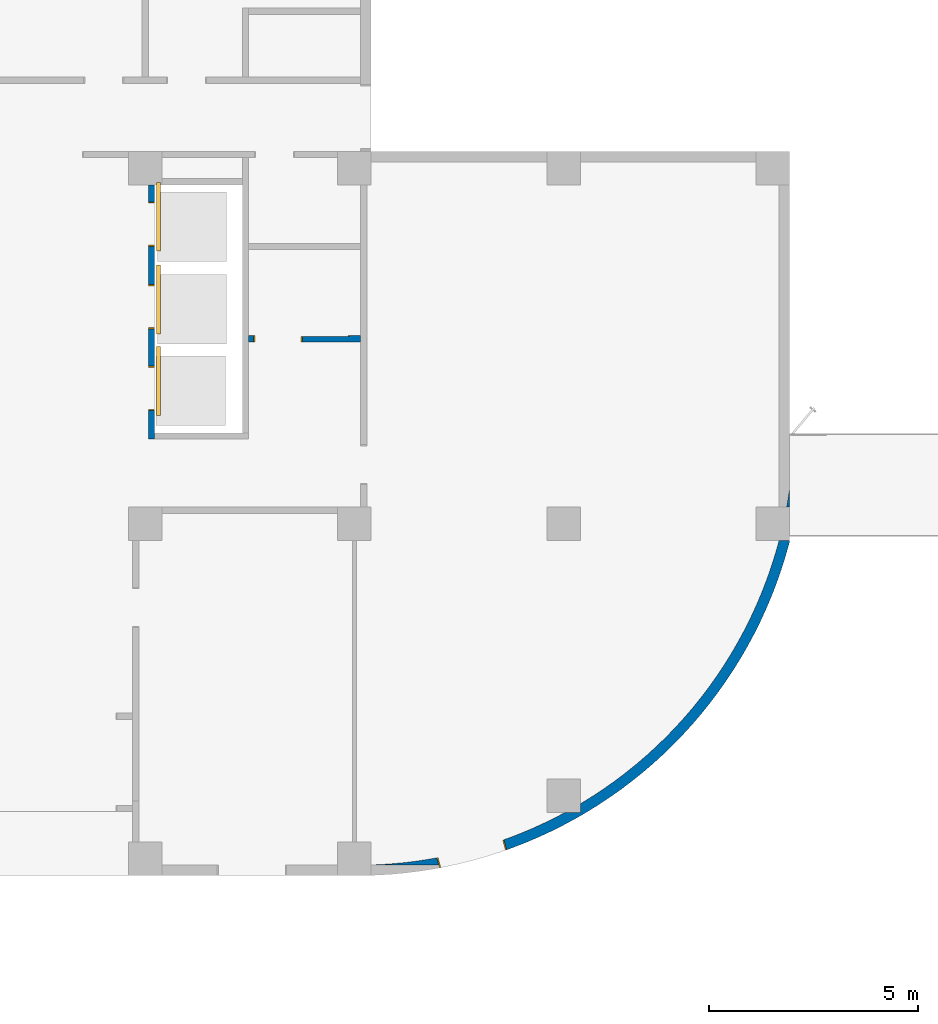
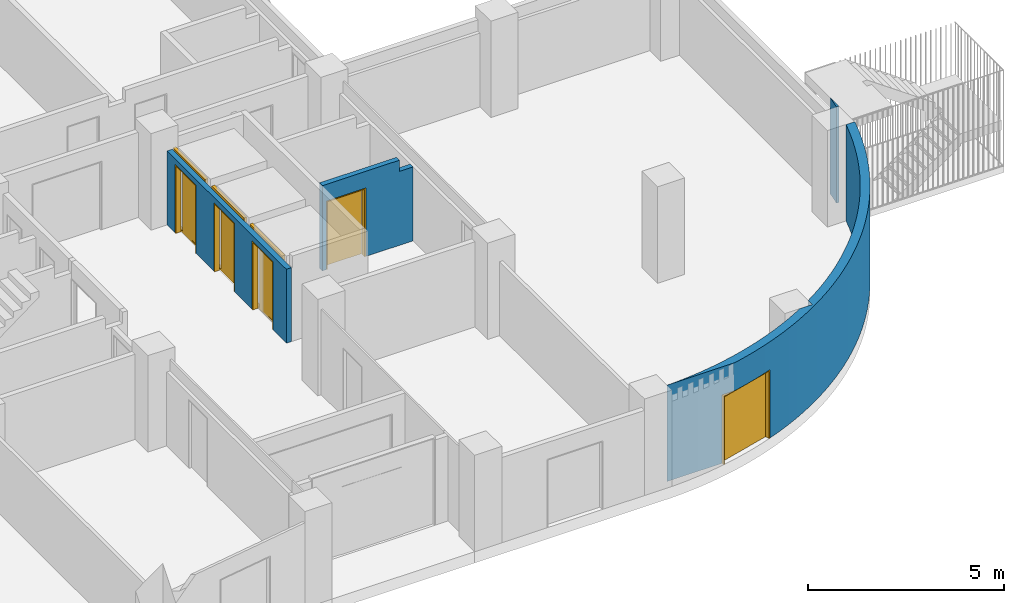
# One storey, part 4 of 9: 5 doors, 3 walls, 5 openings.
"""IFC2X3 building model written with IfcOpenShell, lengths in millimetres."""

import ifcopenshell
import ifcopenshell.guid

model = None  # the IFC model being written
_history = None  # IfcOwnerHistory: only IFC2X3 demands one
_inside = {}  # id of a spatial element -> (the spatial element, [elements in it])
_under = {}  # id of a project, library or spatial element -> (it, [spatial elements below it])
_declared = {}  # id of a project -> (the project, [libraries it declares])
_typed = {}  # id of a type object -> (the type object, [elements of that type])
_made_of = {}  # id of a material, layer set ... -> (it, [elements and type objects made of it])


def new_model(schema):
    """Start an empty IFC model of exactly this schema.

    Asked for "IFC4X3", IfcOpenShell would pick the latest addendum, in which some entities
    have other attributes; the version numbers below select the first issue.
    IFC2X3 requires an IfcOwnerHistory on every rooted entity: one is made here for all.
    """
    global model, _history
    if schema == "IFC4X3":
        model = ifcopenshell.file(schema_version=(4, 3, 0, 0))
    else:
        model = ifcopenshell.file(schema=schema)
    _inside.clear()
    _under.clear()
    _declared.clear()
    _typed.clear()
    _made_of.clear()
    _history = None
    if model.schema == "IFC2X3":
        org = make("IfcOrganization", Name="unknown")
        user = make(
            "IfcPersonAndOrganization",
            ThePerson=make("IfcPerson", FamilyName="unknown"),
            TheOrganization=org,
        )
        app = make(
            "IfcApplication",
            ApplicationDeveloper=org,
            Version="unknown",
            ApplicationFullName="unknown",
            ApplicationIdentifier="unknown",
        )
        _history = make(
            "IfcOwnerHistory",
            OwningUser=user,
            OwningApplication=app,
            ChangeAction="ADDED",
            CreationDate=0,
        )
    return model


def make(cls, **values):
    """One entity of the class cls with the attributes given. An attribute that is None is left unset."""
    return model.create_entity(
        cls, **{name: value for name, value in values.items() if value is not None}
    )


def entity(cls, *values):
    """Any entity or typed value of the class cls, its attributes in the order of the schema. None: left unset."""
    e = model.create_entity(cls)
    for i, value in enumerate(values):
        if value is not None:
            e[i] = value
    return e


def rooted(cls, **values):
    """An entity with a GlobalId (a new one), such as an element, a storey or a relation."""
    return make(cls, GlobalId=ifcopenshell.guid.new(), OwnerHistory=_history, **values)


def si_unit(unit_type, name, prefix=None):
    """IfcSIUnit, for example si_unit("LENGTHUNIT", "METRE", prefix="MILLI")."""
    return make("IfcSIUnit", UnitType=unit_type, Prefix=prefix, Name=name)


def converted_unit(unit_type, name, factor, base, dimensions=None, offset=None):
    """IfcConversionBasedUnit, such as the inch: factor (a typed value) times the base unit."""
    return make(
        "IfcConversionBasedUnit"
        if offset is None
        else "IfcConversionBasedUnitWithOffset",
        ConversionOffset=offset,
        Dimensions=None
        if dimensions is None
        else entity("IfcDimensionalExponents", *dimensions),
        UnitType=unit_type,
        Name=name,
        ConversionFactor=make(
            "IfcMeasureWithUnit", ValueComponent=factor, UnitComponent=base
        ),
    )


def derived_unit(unit_type, elements):
    """IfcDerivedUnit: a product of units, each with its exponent."""
    return make(
        "IfcDerivedUnit",
        Elements=[
            make("IfcDerivedUnitElement", Unit=unit, Exponent=power)
            for unit, power in elements
        ],
        UnitType=unit_type,
    )


def money_unit(currency):
    """IfcMonetaryUnit."""
    return make("IfcMonetaryUnit", Currency=currency)


def assignment(units):
    """IfcUnitAssignment: the units of a project."""
    return None if units is None else make("IfcUnitAssignment", Units=units)


def point(xyz):
    """IfcCartesianPoint."""
    return None if xyz is None else make("IfcCartesianPoint", Coordinates=xyz)


def direction(xyz):
    """IfcDirection."""
    return None if xyz is None else make("IfcDirection", DirectionRatios=xyz)


def frame(location, z_axis=None, x_axis=None):
    """IfcAxis2Placement3D, a coordinate frame: its origin and axes. An axis left out is left unset."""
    return make(
        "IfcAxis2Placement3D",
        Location=point(location),
        Axis=direction(z_axis),
        RefDirection=direction(x_axis),
    )


def origin_with_axes():
    """The frame at (0, 0, 0) with the z axis (0, 0, 1) and the x axis (1, 0, 0) written out."""
    return frame((0.0, 0.0, 0.0), z_axis=(0.0, 0.0, 1.0), x_axis=(1.0, 0.0, 0.0))


def place(relative_to, where):
    """IfcLocalPlacement: puts the frame where relative to a parent placement (None: the world)."""
    return make(
        "IfcLocalPlacement", PlacementRelTo=relative_to, RelativePlacement=where
    )


def context(
    kind, dimensions, precision=None, world=None, true_north=None, identifier=None
):
    """IfcGeometricRepresentationContext, for example the 3D "Model" context."""
    return make(
        "IfcGeometricRepresentationContext",
        ContextIdentifier=identifier,
        ContextType=kind,
        CoordinateSpaceDimension=dimensions,
        Precision=precision,
        WorldCoordinateSystem=world,
        TrueNorth=true_north,
    )


def subcontext(parent, identifier, kind, view, scale=None):
    """IfcGeometricRepresentationSubContext, for example "Body" below "Model"."""
    return make(
        "IfcGeometricRepresentationSubContext",
        ContextIdentifier=identifier,
        ContextType=kind,
        ParentContext=parent,
        TargetScale=scale,
        TargetView=view,
    )


def project(units=None, contexts=None):
    """IfcProject with its units and contexts."""
    return rooted(
        "IfcProject",
        Name="project",
        RepresentationContexts=contexts,
        UnitsInContext=assignment(units),
    )


def spatial(cls, under=None, at=None, **own):
    """A site, building, storey or space (cls), placed at a placement, below another one or the project."""
    s = rooted(cls, ObjectPlacement=at, **own)
    if under is not None:
        _under.setdefault(under.id(), (under, []))[1].append(s)
    return s


def faces_of(points, faces, orient=None, outer=None):
    """IfcFace entities. A face is a list of loops; a loop is a list of indices into points, from 0.

    orient and outer hold one flag for each loop. By default every Orientation is true, the
    first loop of a face is its IfcFaceOuterBound and the others are IfcFaceBound.
    """
    made = []
    for i, loops in enumerate(faces):
        bounds = []
        for j, loop in enumerate(loops):
            is_outer = j == 0 if outer is None else outer[i][j]
            bounds.append(
                make(
                    "IfcFaceOuterBound" if is_outer else "IfcFaceBound",
                    Bound=make("IfcPolyLoop", Polygon=[points[k] for k in loop]),
                    Orientation=True if orient is None else orient[i][j],
                )
            )
        made.append(make("IfcFace", Bounds=bounds))
    return made


def open_shell(faces, orient=None, outer=None):
    """The faces of one IfcOpenShell. surface_model builds it on its shared points."""
    return ("IfcOpenShell", faces, orient, outer)


def faceted_brep(points, faces, orient=None, outer=None, voids=None):
    """IfcFacetedBrep: a solid bounded by flat faces; with voids (closed shells), ...WithVoids."""
    shared = [point(p) for p in points]
    hull = make("IfcClosedShell", CfsFaces=faces_of(shared, faces, orient, outer))
    if voids is None:
        return make("IfcFacetedBrep", Outer=hull)
    return make(
        "IfcFacetedBrepWithVoids",
        Outer=hull,
        Voids=[
            make(cls, CfsFaces=faces_of(shared, fs, o, b)) for cls, fs, o, b in voids
        ],
    )


def surface_model(cls, points, shells):
    """IfcFaceBasedSurfaceModel or IfcShellBasedSurfaceModel (cls): surfaces that need not close."""
    shared = [point(p) for p in points]
    made = [make(c, CfsFaces=faces_of(shared, fs, o, b)) for c, fs, o, b in shells]
    if cls == "IfcFaceBasedSurfaceModel":
        return make(cls, FbsmFaces=made)
    return make(cls, SbsmBoundary=made)


def shape(context_of_items, identifier, shape_type, items):
    """IfcShapeRepresentation: the items that make up one representation, for example the "Body"."""
    return make(
        "IfcShapeRepresentation",
        ContextOfItems=context_of_items,
        RepresentationIdentifier=identifier,
        RepresentationType=shape_type,
        Items=items,
    )


def source(mapping_origin, context_of_items, identifier, shape_type, items):
    """IfcRepresentationMap: a shape defined once, which mapped items show again and again."""
    return make(
        "IfcRepresentationMap",
        MappingOrigin=mapping_origin,
        MappedRepresentation=shape(context_of_items, identifier, shape_type, items),
    )


def transform(
    local_origin,
    x_axis=None,
    y_axis=None,
    z_axis=None,
    scale=None,
    scale2=None,
    scale3=None,
    uniform=True,
):
    """IfcCartesianTransformationOperator3D, or its non-uniform kind. x_axis, y_axis, z_axis: its Axis1, 2, 3."""
    if uniform:
        return make(
            "IfcCartesianTransformationOperator3D",
            Axis1=direction(x_axis),
            Axis2=direction(y_axis),
            LocalOrigin=point(local_origin),
            Scale=scale,
            Axis3=direction(z_axis),
        )
    return make(
        "IfcCartesianTransformationOperator3DnonUniform",
        Axis1=direction(x_axis),
        Axis2=direction(y_axis),
        LocalOrigin=point(local_origin),
        Scale=scale,
        Axis3=direction(z_axis),
        Scale2=scale2,
        Scale3=scale3,
    )


def mapped(mapping_source, mapping_target):
    """IfcMappedItem: shows the shape of a source again, moved by a transform."""
    return make(
        "IfcMappedItem", MappingSource=mapping_source, MappingTarget=mapping_target
    )


def material(Name=None, Category=None):
    """IfcMaterial."""
    return make("IfcMaterial", Name=Name, Category=Category)


def made_of(thing, what):
    """Note that an element or type object is made of a material, layer set ...; save() writes the relation."""
    if what is not None:
        _made_of.setdefault(what.id(), (what, []))[1].append(thing)
    return thing


def type_object(cls, material=None, **own):
    """A type object (cls), such as IfcWallType, which elements share."""
    return made_of(rooted(cls, **own), material)


def element(
    cls,
    number,
    at=None,
    inside=None,
    cuts=None,
    type_object=None,
    material=None,
    context=None,
    identifier="Body",
    shape_type=None,
    held_by="IfcProductDefinitionShape",
    body=None,
    shapes=None,
    **own,
):
    """One element of the class cls, such as IfcWall. Its Tag is "e" and its number.

    at: its placement. inside: the storey or other place that contains it. cuts: it is an
    opening in that element (IfcRelVoidsElement). A single representation is given by context,
    identifier, shape_type and body (its items); several are given by shapes. held_by: the class
    of the entity that holds the representations. save() writes the other relations.
    """
    e = rooted(cls, Tag="e%d" % number, ObjectPlacement=at, **own)
    if body is not None:
        shapes = [shape(context, identifier, shape_type, body)]
    if shapes is not None:
        e.Representation = make(held_by, Representations=shapes)
    if inside is not None:
        _inside.setdefault(inside.id(), (inside, []))[1].append(e)
    if cuts is not None:
        rooted(
            "IfcRelVoidsElement", RelatingBuildingElement=cuts, RelatedOpeningElement=e
        )
    if type_object is not None:
        _typed.setdefault(type_object.id(), (type_object, []))[1].append(e)
    return made_of(e, material)


def fill(opening, filler):
    """IfcRelFillsElement: the door or window that sits in an opening."""
    return rooted(
        "IfcRelFillsElement",
        RelatingOpeningElement=opening,
        RelatedBuildingElement=filler,
    )


def aggregate(whole, parts):
    """IfcRelAggregates: a whole, such as a stair, and the parts it consists of."""
    return rooted("IfcRelAggregates", RelatingObject=whole, RelatedObjects=parts)


def save(model, path):
    """Write the relations noted so far, then the file.

    IfcRelAggregates (storeys below a building ...), IfcRelContainedInSpatialStructure (elements
    in a storey), IfcRelDefinesByType, IfcRelAssociatesMaterial and IfcRelDeclares: one each for
    every whole, place, type object, material and project.
    """
    for whole, parts in _under.values():
        aggregate(whole, parts)
    for where, things in _inside.values():
        rooted(
            "IfcRelContainedInSpatialStructure",
            RelatedElements=things,
            RelatingStructure=where,
        )
    for kind, things in _typed.values():
        rooted("IfcRelDefinesByType", RelatedObjects=things, RelatingType=kind)
    for what, things in _made_of.values():
        rooted("IfcRelAssociatesMaterial", RelatedObjects=things, RelatingMaterial=what)
    for by, libraries in _declared.values():
        rooted("IfcRelDeclares", RelatingContext=by, RelatedDefinitions=libraries)
    model.write(path)


model = new_model("IFC2X3")

# Units and contexts
model_context = context("Model", 3, precision=0.01, world=origin_with_axes(), true_north=direction((0.0, 1.0)))
body_context = subcontext(model_context, "Body", "Model", "MODEL_VIEW")
ifc_project = project(units=[si_unit("LENGTHUNIT", "METRE", prefix="MILLI"), si_unit("AREAUNIT", "SQUARE_METRE"), si_unit("VOLUMEUNIT", "CUBIC_METRE"), converted_unit("PLANEANGLEUNIT", "DEGREE", entity("IfcPlaneAngleMeasure", 0.0174532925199), si_unit("PLANEANGLEUNIT", "RADIAN"), dimensions=[0, 0, 0, 0, 0, 0, 0]), si_unit("SOLIDANGLEUNIT", "STERADIAN"), money_unit("JPY"), converted_unit("TIMEUNIT", "Year", entity("IfcTimeMeasure", 31556926.0), si_unit("TIMEUNIT", "SECOND"), dimensions=[0, 0, 1, 0, 0, 0, 0]), si_unit("MASSUNIT", "GRAM", prefix="KILO"), si_unit("THERMODYNAMICTEMPERATUREUNIT", "DEGREE_CELSIUS"), si_unit("LUMINOUSINTENSITYUNIT", "LUMEN"), si_unit("ENERGYUNIT", "JOULE", prefix="MEGA"), derived_unit("THERMALCONDUCTANCEUNIT", [(si_unit("POWERUNIT", "WATT"), 1), (si_unit("LENGTHUNIT", "METRE"), -1), (si_unit("THERMODYNAMICTEMPERATUREUNIT", "KELVIN"), -1)]), derived_unit("SPECIFICHEATCAPACITYUNIT", [(si_unit("ENERGYUNIT", "JOULE"), 1), (si_unit("MASSUNIT", "GRAM", prefix="KILO"), -1), (si_unit("THERMODYNAMICTEMPERATUREUNIT", "KELVIN"), -1)]), derived_unit("MASSDENSITYUNIT", [(si_unit("MASSUNIT", "GRAM", prefix="KILO"), 1), (si_unit("VOLUMEUNIT", "CUBIC_METRE"), -1)])], contexts=[model_context])

# Site, building, storey
site_placement = place(None, origin_with_axes())
site = spatial("IfcSite", under=ifc_project, at=site_placement, Name="サイト", CompositionType="ELEMENT")
building_placement = place(site_placement, origin_with_axes())
building = spatial("IfcBuilding", under=site, at=building_placement, Name="建築", CompositionType="ELEMENT")
storey_placement = place(building_placement, origin_with_axes())
storey = spatial("IfcBuildingStorey", under=building, at=storey_placement, Name="1FL", CompositionType="ELEMENT", Elevation=0.0)

# Wall, openings, doors
ifc_material = material(Name="コンクリート")
wall_type_1 = type_object("IfcWallType", Name="コンクリート 150", PredefinedType="NOTDEFINED")
wall_1_placement = place(storey_placement, frame((20150.0, 2100.0, 0.0), z_axis=(0.0, 0.0, 1.0), x_axis=(0.0, 1.0, 0.0)))
wall_1 = element("IfcWall", 1, at=wall_1_placement, inside=storey, type_object=wall_type_1, material=ifc_material, Name="W6", context=body_context, shape_type="Brep", body=[
    faceted_brep([(605.0, -75.0, 0.0), (605.0, -75.0, 2130.0), (1665.0, -75.0, 2130.0), (1665.0, -75.0, 0.0), (2554.97613952, -75.0, 0.0), (2554.97613952, -75.0, 2130.0), (3614.97613952, -75.0, 2130.0), (3614.97613952, -75.0, 0.0), (4530.0, -75.0, 0.0), (4530.0, -75.0, 2130.0), (5590.0, -75.0, 2130.0), (5590.0, -75.0, 0.0), (6000.0, -75.0, 0.0), (6000.0, -75.0, 2300.0), (-75.0, -75.0, 2300.0), (-75.0, -75.0, 0.0), (605.0, 75.0, 0.0), (605.0, 75.0, 2130.0), (1665.0, 75.0, 2130.0), (1665.0, 75.0, 0.0), (2554.97613952, 75.0, 0.0), (2554.97613952, 75.0, 2130.0), (3614.97613952, 75.0, 2130.0), (3614.97613952, 75.0, 0.0), (4530.0, 75.0, 0.0), (4530.0, 75.0, 2130.0), (5590.0, 75.0, 2130.0), (5590.0, 75.0, 0.0), (6000.0, 75.0, 0.0), (6000.0, 75.0, 2300.0), (-75.0, 75.0, 2300.0), (-75.0, 75.0, 0.0)], [[[0, 1, 2, 3, 4, 5, 6, 7, 8, 9, 10, 11, 12, 13, 14, 15]], [[1, 0, 16, 17]], [[2, 1, 17, 18]], [[3, 2, 18, 19]], [[3, 19, 20, 4]], [[4, 20, 21, 5]], [[5, 21, 22, 6]], [[6, 22, 23, 7]], [[23, 24, 8, 7]], [[24, 25, 9, 8]], [[25, 26, 10, 9]], [[26, 27, 11, 10]], [[28, 12, 11, 27]], [[12, 28, 29, 13]], [[30, 14, 13, 29]], [[30, 31, 15, 14]], [[16, 0, 15, 31]], [[17, 16, 31, 30, 29, 28, 27, 26, 25, 24, 23, 22, 21, 20, 19, 18]]]),
])
opening_1_placement = place(wall_1_placement, frame((5060.0, 0.0, 0.0), z_axis=(0.0, 0.0, 1.0), x_axis=(1.0, 0.0, 0.0)))
opening_1 = element("IfcOpeningElement", 2, at=opening_1_placement, cuts=wall_1, Name="SD5", context=body_context, shape_type="Brep", body=[
    faceted_brep([(-530.0, -150.0, 0.0), (-530.0, -150.0, 2130.0), (-530.0, 150.0, 2130.0), (-530.0, 150.0, 0.0), (530.0, -150.0, 0.0), (530.0, -150.0, 2130.0), (530.0, 150.0, 2130.0), (530.0, 150.0, 0.0)], [[[0, 1, 2, 3]], [[0, 4, 5, 1]], [[1, 5, 6, 2]], [[3, 2, 6, 7]], [[4, 0, 3, 7]], [[5, 4, 7, 6]]]),
])
opening_2_placement = place(wall_1_placement, frame((3084.97613952, 0.0, 0.0), z_axis=(0.0, 0.0, 1.0), x_axis=(1.0, 0.0, 0.0)))
opening_2 = element("IfcOpeningElement", 3, at=opening_2_placement, cuts=wall_1, Name="SD5", context=body_context, shape_type="Brep", body=[
    faceted_brep([(-530.0, -150.0, 0.0), (-530.0, -150.0, 2130.0), (-530.0, 150.0, 2130.0), (-530.0, 150.0, 0.0), (530.0, -150.0, 0.0), (530.0, -150.0, 2130.0), (530.0, 150.0, 2130.0), (530.0, 150.0, 0.0)], [[[0, 1, 2, 3]], [[0, 4, 5, 1]], [[1, 5, 6, 2]], [[3, 2, 6, 7]], [[4, 0, 3, 7]], [[5, 4, 7, 6]]]),
])
opening_3_placement = place(wall_1_placement, frame((1135.0, 0.0, 0.0), z_axis=(0.0, 0.0, 1.0), x_axis=(1.0, 0.0, 0.0)))
opening_3 = element("IfcOpeningElement", 4, at=opening_3_placement, cuts=wall_1, Name="SD5", context=body_context, shape_type="Brep", body=[
    faceted_brep([(-530.0, -150.0, 0.0), (-530.0, -150.0, 2130.0), (-530.0, 150.0, 2130.0), (-530.0, 150.0, 0.0), (530.0, -150.0, 0.0), (530.0, -150.0, 2130.0), (530.0, 150.0, 2130.0), (530.0, 150.0, 0.0)], [[[0, 1, 2, 3]], [[0, 4, 5, 1]], [[1, 5, 6, 2]], [[3, 2, 6, 7]], [[4, 0, 3, 7]], [[5, 4, 7, 6]]]),
])
door_style_1 = type_object("IfcDoorStyle", Name="EVドア_小枠タイプ", ConstructionType="NOTDEFINED", OperationType="NOTDEFINED", ParameterTakesPrecedence=False, Sizeable=False)
shared_shape_1 = source(origin_with_axes(), body_context, "Body", "SurfaceModel", [
    surface_model("IfcShellBasedSurfaceModel", [(515.0, -200.5, 0.0), (-15.0, -200.5, 0.0), (-15.0, -200.5, 2100.0), (515.0, -200.5, 2100.0), (350.0, -200.5, 1100.0), (350.0, -200.5, 1800.0), (150.0, -200.5, 1800.0), (150.0, -200.5, 1100.0)], [open_shell([[[0, 1, 2, 3], [4, 5, 6, 7]]])]),
    surface_model("IfcShellBasedSurfaceModel", [(350.0, -200.5, 1100.0), (150.0, -200.5, 1100.0), (150.0, -200.5, 1800.0), (350.0, -200.5, 1800.0)], [open_shell([[[0, 1, 2, 3]]])]),
    surface_model("IfcShellBasedSurfaceModel", [(15.0, -201.5, 0.0), (-515.0, -201.5, 0.0), (-515.0, -201.5, 2100.0), (15.0, -201.5, 2100.0), (-150.0, -201.5, 1100.0), (-150.0, -201.5, 1800.0), (-350.0, -201.5, 1800.0), (-350.0, -201.5, 1100.0)], [open_shell([[[0, 1, 2, 3], [4, 5, 6, 7]]])]),
    surface_model("IfcShellBasedSurfaceModel", [(-150.0, -201.5, 1100.0), (-350.0, -201.5, 1100.0), (-350.0, -201.5, 1800.0), (-150.0, -201.5, 1800.0)], [open_shell([[[0, 1, 2, 3]]])]),
    surface_model("IfcShellBasedSurfaceModel", [(-530.0, 0.0, 0.0), (-530.0, 0.0, 2130.0), (530.0, 0.0, 2130.0), (530.0, 0.0, 0.0), (500.0, 0.0, 0.0), (500.0, 0.0, 2100.0), (-500.0, 0.0, 2100.0), (-500.0, 0.0, 0.0)], [open_shell([[[0, 1, 2, 3, 4, 5, 6, 7]]])]),
    surface_model("IfcShellBasedSurfaceModel", [(-530.0, -150.0, 0.0), (-530.0, -150.0, 2130.0), (530.0, -150.0, 2130.0), (530.0, -150.0, 0.0), (500.0, -150.0, 0.0), (500.0, -150.0, 2100.0), (-500.0, -150.0, 2100.0), (-500.0, -150.0, 0.0)], [open_shell([[[0, 1, 2, 3, 4, 5, 6, 7]]])]),
    surface_model("IfcShellBasedSurfaceModel", [(-500.0, 0.0, 0.0), (-500.0, 0.0, 2100.0), (-500.0, -150.0, 2100.0), (-500.0, -150.0, 0.0), (500.0, 0.0, 2100.0), (500.0, -150.0, 2100.0), (-530.0, 0.0, 0.0), (-530.0, -150.0, 0.0), (500.0, 0.0, 0.0), (500.0, -150.0, 0.0), (-530.0, 0.0, 2130.0), (-530.0, -150.0, 2130.0), (530.0, 0.0, 0.0), (530.0, -150.0, 0.0), (530.0, 0.0, 2130.0), (530.0, -150.0, 2130.0)], [open_shell([[[0, 1, 2, 3]], [[1, 4, 5, 2]], [[6, 0, 3, 7]], [[4, 8, 9, 5]], [[10, 6, 7, 11]], [[8, 12, 13, 9]], [[14, 10, 11, 15]], [[12, 14, 15, 13]]])]),
    faceted_brep([(-645.0, -200.0, 0.0), (-645.0, -200.0, -50.0), (-645.0, -290.0, -50.0), (-645.0, -290.0, 0.0), (1000.0, -200.0, 0.0), (1000.0, -200.0, -50.0), (1000.0, -290.0, -50.0), (1000.0, -290.0, 0.0)], [[[0, 1, 2, 3]], [[0, 4, 5, 1]], [[1, 5, 6, 2]], [[3, 2, 6, 7]], [[4, 0, 3, 7]], [[5, 4, 7, 6]]]),
    faceted_brep([(1000.0, -290.0, 2150.0), (1000.0, -290.0, 2300.0), (-645.0, -290.0, 2300.0), (-645.0, -290.0, 2150.0), (1000.0, -200.0, 2150.0), (1000.0, -200.0, 2300.0), (-645.0, -200.0, 2300.0), (-645.0, -200.0, 2150.0)], [[[0, 1, 2, 3]], [[0, 4, 5, 1]], [[1, 5, 6, 2]], [[3, 2, 6, 7]], [[4, 0, 3, 7]], [[5, 4, 7, 6]]]),
])
door_1_placement = place(opening_1_placement, frame((-500.0, 0.0, 0.0), z_axis=(0.0, 0.0, 1.0), x_axis=(1.0, 0.0, 0.0)))
door_1 = element("IfcDoor", 5, at=door_1_placement, inside=storey, type_object=door_style_1, Name="SD5", OverallHeight=2225.0, OverallWidth=1340.0, context=body_context, shape_type="MappedRepresentation", body=[
    mapped(shared_shape_1, transform((500.0, 75.0, 0.0))),
])
fill(opening_1, door_1)
door_2_placement = place(opening_2_placement, frame((-500.0, 0.0, 0.0), z_axis=(0.0, 0.0, 1.0), x_axis=(1.0, 0.0, 0.0)))
door_2 = element("IfcDoor", 6, at=door_2_placement, inside=storey, type_object=door_style_1, Name="SD5", OverallHeight=2225.0, OverallWidth=1340.0, context=body_context, shape_type="MappedRepresentation", body=[
    mapped(shared_shape_1, transform((500.0, 75.0, 0.0))),
])
fill(opening_2, door_2)
door_3_placement = place(opening_3_placement, frame((-500.0, 0.0, 0.0), z_axis=(0.0, 0.0, 1.0), x_axis=(1.0, 0.0, 0.0)))
door_3 = element("IfcDoor", 7, at=door_3_placement, inside=storey, type_object=door_style_1, Name="SD5", OverallHeight=2225.0, OverallWidth=1340.0, context=body_context, shape_type="MappedRepresentation", body=[
    mapped(shared_shape_1, transform((500.0, 75.0, 0.0))),
])
fill(opening_3, door_3)

# Wall, opening, door
wall_2_placement = place(storey_placement, frame((22400.0, 4425.000045, 0.0), z_axis=(0.0, 0.0, 1.0), x_axis=(1.0, 0.0, 0.0)))
wall_2 = element("IfcWall", 8, at=wall_2_placement, inside=storey, type_object=wall_type_1, material=ifc_material, Name="W8", context=body_context, shape_type="Brep", body=[
    faceted_brep([(2480.0, 75.0, 2130.0), (1355.0, 75.0, 2130.0), (195.0, 75.0, 2130.0), (195.0, 75.0, 0.0), (75.0, 75.0, 0.0), (75.0, 75.0, 2650.0), (2350.0, 75.0, 2650.0), (2350.0, 75.0, 2300.0), (2749.9999795, 75.0, 2300.0), (2749.9999795, 75.0, 0.0), (2480.0, 75.0, 0.0), (2480.0, 55.0, 2130.0), (1355.0, 55.0, 2130.0), (1355.0, -75.0, 2130.0), (195.0, -75.0, 2130.0), (195.0, -75.0, 0.0), (75.0, -75.0, 0.0), (75.0, -75.0, 2650.0), (2350.0, -75.0, 2650.0), (2350.0, -75.0, 2300.0), (2749.9999795, -75.0, 2300.0), (2749.9999795, -75.0, 0.0), (2480.0, 55.0, 0.0), (1355.0, -75.0, 0.0), (1355.0, 55.0, 0.0)], [[[0, 1, 2, 3, 4, 5, 6, 7, 8, 9, 10]], [[1, 0, 11, 12]], [[1, 12, 13, 14, 2]], [[2, 14, 15, 3]], [[15, 16, 4, 3]], [[17, 5, 4, 16]], [[6, 5, 17, 18]], [[6, 18, 19, 7]], [[8, 7, 19, 20]], [[20, 21, 9, 8]], [[22, 10, 9, 21, 23, 24]], [[0, 10, 22, 11]], [[22, 24, 12, 11]], [[12, 24, 23, 13]], [[16, 15, 14, 13, 23, 21, 20, 19, 18, 17]]]),
])
opening_4_placement = place(wall_2_placement, frame((775.0, 0.0, 0.0), z_axis=(0.0, 0.0, 1.0), x_axis=(1.0, 0.0, 0.0)))
opening_4 = element("IfcOpeningElement", 9, at=opening_4_placement, cuts=wall_2, Name="SD4", context=body_context, shape_type="Brep", body=[
    faceted_brep([(1705.0, 225.0, 0.0), (1705.0, 225.0, 2130.0), (1705.0, 55.0, 2130.0), (1705.0, 55.0, 0.0), (-580.0, 225.0, 0.0), (-580.0, 225.0, 2130.0), (-580.0, 55.0, 2130.0), (-580.0, 55.0, 0.0)], [[[0, 1, 2, 3]], [[0, 4, 5, 1]], [[1, 5, 6, 2]], [[3, 2, 6, 7]], [[4, 0, 3, 7]], [[5, 4, 7, 6]]]),
    faceted_brep([(-580.0, -160.0, 0.0), (-580.0, -160.0, 2130.0), (-580.0, 160.0, 2130.0), (-580.0, 160.0, 0.0), (580.0, -160.0, 0.0), (580.0, -160.0, 2130.0), (580.0, 160.0, 2130.0), (580.0, 160.0, 0.0)], [[[0, 1, 2, 3]], [[0, 4, 5, 1]], [[1, 5, 6, 2]], [[3, 2, 6, 7]], [[4, 0, 3, 7]], [[5, 4, 7, 6]]]),
])
door_style_2 = type_object("IfcDoorStyle", Name="片引き戸", ConstructionType="NOTDEFINED", OperationType="NOTDEFINED", ParameterTakesPrecedence=False, Sizeable=False)
shared_shape_2 = source(origin_with_axes(), body_context, "Body", "SurfaceModel", [
    surface_model("IfcShellBasedSurfaceModel", [(-550.0, -0.5, 3.0), (-550.0, -0.5, 2103.0), (550.0, -0.5, 2103.0), (550.0, -0.5, 3.0)], [open_shell([[[0, 1, 2, 3]]])]),
    surface_model("IfcShellBasedSurfaceModel", [(-580.0, -10.0, 0.0), (-580.0, -10.0, 2130.0), (1705.0, -10.0, 2130.0), (1705.0, -10.0, 0.0), (1675.0, -10.0, 0.0), (1675.0, -10.0, 2100.0), (-550.0, -10.0, 2100.0), (-550.0, -10.0, 0.0)], [open_shell([[[0, 1, 2, 3, 4, 5, 6, 7]]])]),
    surface_model("IfcShellBasedSurfaceModel", [(580.0, -30.0, 2130.0), (1705.0, -30.0, 2130.0), (1705.0, -30.0, 0.0), (1675.0, -30.0, 0.0), (1675.0, -30.0, 2100.0), (580.0, -30.0, 2100.0)], [open_shell([[[0, 1, 2, 3, 4, 5]]])]),
    surface_model("IfcShellBasedSurfaceModel", [(-550.0, -10.0, 0.0), (-550.0, -10.0, 2100.0), (-550.0, -30.0, 2100.0), (-550.0, -30.0, 0.0), (1675.0, -10.0, 2100.0), (1675.0, -30.0, 2100.0), (-580.0, -10.0, 0.0), (-580.0, -30.0, 0.0), (1675.0, -10.0, 0.0), (1675.0, -30.0, 0.0), (-580.0, -10.0, 2130.0), (-580.0, -30.0, 2130.0), (1705.0, -10.0, 0.0), (1705.0, -30.0, 0.0), (1705.0, -10.0, 2130.0), (1705.0, -30.0, 2130.0)], [open_shell([[[0, 1, 2, 3]], [[1, 4, 5, 2]], [[6, 0, 3, 7]], [[4, 8, 9, 5]], [[10, 6, 7, 11]], [[8, 12, 13, 9]], [[14, 10, 11, 15]], [[12, 14, 15, 13]]])]),
    surface_model("IfcShellBasedSurfaceModel", [(-580.0, -30.0, 0.0), (-580.0, -30.0, 2130.0), (580.0, -30.0, 2130.0), (580.0, -30.0, 0.0), (550.0, -30.0, 0.0), (550.0, -30.0, 2100.0), (-550.0, -30.0, 2100.0), (-550.0, -30.0, 0.0)], [open_shell([[[0, 1, 2, 3, 4, 5, 6, 7]]])]),
    surface_model("IfcShellBasedSurfaceModel", [(-580.0, -160.0, 0.0), (-580.0, -160.0, 2130.0), (580.0, -160.0, 2130.0), (580.0, -160.0, 0.0), (550.0, -160.0, 0.0), (550.0, -160.0, 2100.0), (-550.0, -160.0, 2100.0), (-550.0, -160.0, 0.0)], [open_shell([[[0, 1, 2, 3, 4, 5, 6, 7]]])]),
    surface_model("IfcShellBasedSurfaceModel", [(-550.0, -30.0, 0.0), (-550.0, -30.0, 2100.0), (-550.0, -160.0, 2100.0), (-550.0, -160.0, 0.0), (550.0, -30.0, 2100.0), (550.0, -160.0, 2100.0), (-580.0, -30.0, 0.0), (-580.0, -160.0, 0.0), (550.0, -30.0, 0.0), (550.0, -160.0, 0.0), (-580.0, -30.0, 2130.0), (-580.0, -160.0, 2130.0), (580.0, -30.0, 0.0), (580.0, -160.0, 0.0), (580.0, -30.0, 2130.0), (580.0, -160.0, 2130.0)], [open_shell([[[0, 1, 2, 3]], [[1, 4, 5, 2]], [[6, 0, 3, 7]], [[4, 8, 9, 5]], [[10, 6, 7, 11]], [[8, 12, 13, 9]], [[14, 10, 11, 15]], [[12, 14, 15, 13]]])]),
])
door_4_placement = place(opening_4_placement, frame((-550.0, 0.0, 0.0), z_axis=(0.0, 0.0, 1.0), x_axis=(1.0, 0.0, 0.0)))
door_4 = element("IfcDoor", 10, at=door_4_placement, inside=storey, type_object=door_style_2, Name="SD4", OverallHeight=2150.0, OverallWidth=1200.0, context=body_context, shape_type="MappedRepresentation", body=[
    mapped(shared_shape_2, transform((550.0, 85.0, 0.0))),
])
fill(opening_4, door_4)

wall_type_2 = type_object("IfcWallType", Name="コンクリート 250", PredefinedType="NOTDEFINED")
wall_3_placement = place(storey_placement, frame((25400.0, -8275.0, 0.0), z_axis=(0.0, 0.0, 1.0), x_axis=(0.999496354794, 0.0317338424, 0.0)))
wall_3 = element("IfcWall", 11, at=wall_3_placement, inside=storey, type_object=wall_type_2, material=ifc_material, Name="W8", context=body_context, shape_type="Brep", body=[
    faceted_brep([(3251.7098297, 382.081578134, 2130.0), (3251.7098297, 382.081578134, 0.0), (3394.18361416, 427.405751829, 0.0), (3394.18361416, 427.405751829, 3000.0), (3080.71636782, 327.684641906, 3000.0), (3080.71636782, 327.684641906, 2130.0), (3194.15782544, 626.118419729, 2130.0), (3194.15782544, 626.118419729, 0.0), (3314.72633745, 664.474024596, 0.0), (3704.43127175, 536.732808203, 3000.0), (3704.43127175, 536.732808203, 0.0), (3314.72633745, 664.474024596, 3000.0), (3008.59730747, 567.087369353, 3000.0), (2764.32687539, 237.664069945, 2130.0), (2764.32687539, 237.664069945, 3000.0), (2445.31525148, 157.429425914, 2130.0), (2123.98409793, 87.0568172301, 2130.0), (1989.40539738, 61.8996981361, 2130.0), (1618.90742496, 73.6629469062, 2130.0), (1578.47203313, 245.120491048, 2130.0), (1758.48557414, 273.063761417, 2130.0), (2074.2619817, 332.092602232, 2130.0), (2388.07082612, 400.817799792, 2130.0), (2699.6144407, 479.174164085, 2130.0), (3008.59730747, 567.087369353, 2130.0), (3617.71114872, 771.241752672, 0.0), (3617.71114872, 771.241752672, 3000.0), (4011.16505188, 655.562107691, 3000.0), (4011.16505188, 655.562107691, 0.0), (2699.6144407, 479.174164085, 3000.0), (2445.31525148, 157.429425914, 3000.0), (2123.98409793, 87.0568172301, 3000.0), (1989.40539738, 61.8996981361, 3000.0), (1793.53917943, 68.1184178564, 3000.0), (1461.284487, 78.6674488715, 3000.0), (1132.53275726, 89.1052614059, 3000.0), (806.613963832, 99.4531286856, 3000.0), (482.880263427, 109.731619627, 3000.0), (160.700727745, 119.960766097, 3000.0), (3.96673029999, 124.937044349, 3000.0), (3.96673029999, 124.937044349, 0.0), (160.700727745, 119.960766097, 0.0), (482.880263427, 109.731619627, 0.0), (806.613963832, 99.4531286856, 0.0), (1132.53275726, 89.1052614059, 0.0), (1461.284487, 78.6674488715, 0.0), (1618.90742496, 73.6629469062, 0.0), (1578.47203313, 245.120491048, 0.0), (1441.0411365, 223.78726978, 0.0), (1441.0411365, 223.78726978, 3000.0), (1758.48557414, 273.063761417, 3000.0), (2074.2619817, 332.092602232, 3000.0), (2388.07082612, 400.817799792, 3000.0), (3917.26434182, 887.289277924, 0.0), (3917.26434182, 887.289277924, 3000.0), (4314.093999, 783.780933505, 3000.0), (4314.093999, 783.780933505, 0.0), (1122.22978406, 184.309869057, 3000.0), (802.353928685, 154.669005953, 3000.0), (481.71699201, 134.892796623, 3000.0), (160.623117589, 125.0, 3000.0), (3.96872913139, 125.0, 3000.0), (3.96872913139, 125.0, 0.0), (160.623117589, 125.0, 0.0), (481.71699201, 134.892796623, 0.0), (802.353928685, 154.669005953, 0.0), (1122.22978406, 184.309869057, 0.0), (4213.10177241, 1012.50652224, 0.0), (4213.10177241, 1012.50652224, 3000.0), (4612.93076664, 921.267662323, 3000.0), (4612.93076664, 921.267662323, 0.0), (4504.94282078, 1146.77470949, 0.0), (4504.94282078, 1146.77470949, 3000.0), (4907.39189002, 1067.89187965, 3000.0), (4907.39189002, 1067.89187965, 0.0), (4667.08834177, 1227.51358543, 0.0), (4827.45200358, 1222.42206594, 0.0), (4827.45200358, 1222.42206594, 3000.0), (4667.08834177, 1227.51358543, 3000.0), (5197.19805494, 1223.51450355, 3000.0), (5197.19805494, 1223.51450355, 0.0), (5041.11580727, 1215.63827584, 3000.0), (5041.11580727, 1215.63827584, 0.0), (5047.82870941, 1427.06937623, 0.0), (5075.53250855, 1441.94600218, 0.0), (5075.53250855, 1441.94600218, 3000.0), (5047.82870941, 1427.06937623, 3000.0), (5482.0743627, 1387.98791651, 3000.0), (5482.0743627, 1387.98791651, 0.0), (5353.73990909, 1602.56911977, 0.0), (5353.73990909, 1602.56911977, 3000.0), (5761.75059085, 1561.15610556, 3000.0), (5761.75059085, 1561.15610556, 0.0), (5626.86896302, 1771.68347017, 0.0), (5626.86896302, 1771.68347017, 3000.0), (6035.96144956, 1742.85481018, 3000.0), (6035.96144956, 1742.85481018, 0.0), (5894.66059091, 1949.12863818, 0.0), (5894.66059091, 1949.12863818, 3000.0), (6304.44683322, 1932.91167813, 3000.0), (6304.44683322, 1932.91167813, 0.0), (6156.86077617, 2134.7363063, 0.0), (6156.86077617, 2134.7363063, 3000.0), (6566.95206718, 2131.14642896, 3000.0), (6566.95206718, 2131.14642896, 0.0), (6413.22080604, 2328.33041443, 0.0), (6413.22080604, 2328.33041443, 3000.0), (6823.22814932, 2337.37102501, 3000.0), (6823.22814932, 2337.37102501, 0.0), (6663.49750751, 2529.72732681, 0.0), (6663.49750751, 2529.72732681, 3000.0), (7073.03198625, 2551.38984976, 3000.0), (7073.03198625, 2551.38984976, 0.0), (6907.45347796, 2738.73600629, 0.0), (6907.45347796, 2738.73600629, 3000.0), (7316.12662391, 2772.99989339, 3000.0), (7316.12662391, 2772.99989339, 0.0), (7144.85731038, 2955.15819547, 0.0), (7144.85731038, 2955.15819547, 3000.0), (7552.2814723, 3001.99094534, 3000.0), (7552.2814723, 3001.99094534, 0.0), (7375.48381285, 3178.78860479, 0.0), (7375.48381285, 3178.78860479, 3000.0), (7781.27252425, 3238.14579373, 3000.0), (7781.27252425, 3238.14579373, 0.0), (7599.11422217, 3409.41510726, 0.0), (7599.11422217, 3409.41510726, 3000.0), (8002.88256788, 3481.24043139, 3000.0), (8002.88256788, 3481.24043139, 0.0), (7815.53641135, 3646.81893968, 0.0), (7815.53641135, 3646.81893968, 3000.0), (8216.90139262, 3731.04426832, 3000.0), (8216.90139262, 3731.04426832, 0.0), (8024.54509083, 3890.77491013, 0.0), (8024.54509083, 3890.77491013, 3000.0), (8423.12598868, 3987.32035046, 3000.0), (8423.12598868, 3987.32035046, 0.0), (8225.94200321, 4141.0516116, 0.0), (8225.94200321, 4141.0516116, 3000.0), (8621.36073951, 4249.82558442, 3000.0), (8621.36073951, 4249.82558442, 0.0), (8419.53611134, 4397.41164147, 0.0), (8419.53611134, 4397.41164147, 3000.0), (8811.41760746, 4518.31096808, 3000.0), (8811.41760746, 4518.31096808, 0.0), (8605.14377946, 4659.61182673, 0.0), (8605.14377946, 4659.61182673, 3000.0), (8993.11631208, 4792.52182679, 3000.0), (8993.11631208, 4792.52182679, 0.0), (8782.58894747, 4927.40345462, 0.0), (8782.58894747, 4927.40345462, 3000.0), (9166.28450113, 5072.19805494, 3000.0), (9166.28450113, 5072.19805494, 0.0), (8951.70329787, 5200.53250855, 0.0), (8951.70329787, 5200.53250855, 3000.0), (9330.75791409, 5357.0743627, 3000.0), (9330.75791409, 5357.0743627, 0.0), (9112.32641546, 5478.73990909, 0.0), (9112.32641546, 5478.73990909, 3000.0), (9486.38053799, 5646.88052762, 3000.0), (9486.38053799, 5646.88052762, 0.0), (9264.30593948, 5761.76175965, 0.0), (9264.30593948, 5761.76175965, 3000.0), (9633.00475532, 5941.341651, 3000.0), (9633.00475532, 5941.341651, 0.0), (9407.49770815, 6049.32959686, 0.0), (9407.49770815, 6049.32959686, 3000.0), (9770.49148413, 6240.17841864, 3000.0), (9770.49148413, 6240.17841864, 0.0), (9541.76589539, 6341.17064523, 0.0), (9541.76589539, 6341.17064523, 3000.0), (9898.71030995, 6543.10736576, 3000.0), (9898.71030995, 6543.10736576, 0.0), (9666.98313971, 6637.00807582, 0.0), (9666.98313971, 6637.00807582, 3000.0), (10017.5396094, 6849.84114589, 3000.0), (10017.5396094, 6849.84114589, 0.0), (9783.03066497, 6936.56126892, 0.0), (9783.03066497, 6936.56126892, 3000.0), (10126.8666658, 7160.08880348, 3000.0), (10126.8666658, 7160.08880348, 0.0), (9889.79839304, 7239.54608019, 0.0), (9889.79839304, 7239.54608019, 3000.0), (10226.5877757, 7473.55604982, 3000.0), (10226.5877757, 7473.55604982, 0.0), (9987.18504829, 7545.67511017, 0.0), (9987.18504829, 7545.67511017, 3000.0), (10239.7863296, 7522.17161236, 3000.0), (10239.7863296, 7522.17161236, 0.0), (9991.54601196, 7561.73828676, 0.0), (10119.9304779, 7557.6621014, 0.0), (10119.9304779, 7557.6621014, 3000.0), (9991.54601196, 7561.73828676, 3000.0), (10244.3744035, 7538.16398783, 0.0), (10244.3744035, 7538.16398783, 3000.0), (10244.8675568, 7553.69537, 3000.0), (10244.8675568, 7553.69537, 0.0)], [[[0, 1, 2, 3, 4, 5]], [[1, 0, 6, 7]], [[1, 7, 8, 2]], [[9, 3, 2, 10]], [[11, 12, 4, 3]], [[13, 5, 4, 14]], [[0, 5, 13, 15, 16, 17, 18, 19, 20, 21, 22, 23, 24, 6]], [[6, 24, 12, 11, 8, 7]], [[10, 2, 8, 25]], [[26, 11, 3, 9]], [[27, 9, 10, 28]], [[12, 29, 14, 4]], [[15, 13, 14, 30]], [[16, 15, 30, 31]], [[17, 16, 31, 32]], [[18, 17, 32, 33, 34, 35, 36, 37, 38, 39, 40, 41, 42, 43, 44, 45, 46]], [[18, 46, 47, 19]], [[19, 47, 48, 49, 50, 20]], [[21, 20, 50, 51]], [[22, 21, 51, 52]], [[23, 22, 52, 29]], [[24, 23, 29, 12]], [[25, 8, 11, 26]], [[28, 10, 25, 53]], [[54, 26, 9, 27]], [[55, 27, 28, 56]], [[29, 52, 30, 14]], [[52, 51, 31, 30]], [[33, 32, 31, 51, 50]], [[49, 34, 33, 50]], [[57, 35, 34, 49]], [[58, 36, 35, 57]], [[59, 37, 36, 58]], [[60, 38, 37, 59]], [[38, 60, 61, 39]], [[62, 40, 39, 61]], [[63, 41, 40, 62]], [[64, 42, 41, 63]], [[65, 43, 42, 64]], [[66, 44, 43, 65]], [[48, 45, 44, 66]], [[47, 46, 45, 48]], [[48, 66, 57, 49]], [[53, 25, 26, 54]], [[56, 28, 53, 67]], [[68, 54, 27, 55]], [[69, 55, 56, 70]], [[66, 65, 58, 57]], [[65, 64, 59, 58]], [[64, 63, 60, 59]], [[60, 63, 62, 61]], [[67, 53, 54, 68]], [[70, 56, 67, 71]], [[72, 68, 55, 69]], [[73, 69, 70, 74]], [[71, 67, 68, 72]], [[70, 71, 75, 76, 74]], [[69, 73, 77, 78, 72]], [[79, 73, 74, 80]], [[71, 72, 78, 75]], [[75, 78, 77, 81, 82, 76]], [[74, 76, 82, 83, 84, 80]], [[85, 86, 81, 77, 73, 79]], [[87, 79, 80, 88]], [[83, 82, 81, 86]], [[85, 84, 83, 86]], [[88, 80, 84, 89]], [[90, 85, 79, 87]], [[91, 87, 88, 92]], [[89, 84, 85, 90]], [[92, 88, 89, 93]], [[94, 90, 87, 91]], [[95, 91, 92, 96]], [[93, 89, 90, 94]], [[96, 92, 93, 97]], [[98, 94, 91, 95]], [[99, 95, 96, 100]], [[97, 93, 94, 98]], [[100, 96, 97, 101]], [[102, 98, 95, 99]], [[103, 99, 100, 104]], [[101, 97, 98, 102]], [[104, 100, 101, 105]], [[106, 102, 99, 103]], [[107, 103, 104, 108]], [[105, 101, 102, 106]], [[108, 104, 105, 109]], [[110, 106, 103, 107]], [[111, 107, 108, 112]], [[109, 105, 106, 110]], [[112, 108, 109, 113]], [[114, 110, 107, 111]], [[115, 111, 112, 116]], [[113, 109, 110, 114]], [[116, 112, 113, 117]], [[118, 114, 111, 115]], [[119, 115, 116, 120]], [[117, 113, 114, 118]], [[120, 116, 117, 121]], [[122, 118, 115, 119]], [[123, 119, 120, 124]], [[121, 117, 118, 122]], [[124, 120, 121, 125]], [[126, 122, 119, 123]], [[127, 123, 124, 128]], [[125, 121, 122, 126]], [[128, 124, 125, 129]], [[130, 126, 123, 127]], [[131, 127, 128, 132]], [[129, 125, 126, 130]], [[132, 128, 129, 133]], [[134, 130, 127, 131]], [[135, 131, 132, 136]], [[133, 129, 130, 134]], [[136, 132, 133, 137]], [[138, 134, 131, 135]], [[139, 135, 136, 140]], [[137, 133, 134, 138]], [[140, 136, 137, 141]], [[142, 138, 135, 139]], [[143, 139, 140, 144]], [[141, 137, 138, 142]], [[144, 140, 141, 145]], [[146, 142, 139, 143]], [[147, 143, 144, 148]], [[145, 141, 142, 146]], [[148, 144, 145, 149]], [[150, 146, 143, 147]], [[151, 147, 148, 152]], [[149, 145, 146, 150]], [[152, 148, 149, 153]], [[154, 150, 147, 151]], [[155, 151, 152, 156]], [[153, 149, 150, 154]], [[156, 152, 153, 157]], [[158, 154, 151, 155]], [[159, 155, 156, 160]], [[157, 153, 154, 158]], [[160, 156, 157, 161]], [[162, 158, 155, 159]], [[163, 159, 160, 164]], [[161, 157, 158, 162]], [[164, 160, 161, 165]], [[166, 162, 159, 163]], [[167, 163, 164, 168]], [[165, 161, 162, 166]], [[168, 164, 165, 169]], [[170, 166, 163, 167]], [[171, 167, 168, 172]], [[169, 165, 166, 170]], [[172, 168, 169, 173]], [[174, 170, 167, 171]], [[175, 171, 172, 176]], [[173, 169, 170, 174]], [[176, 172, 173, 177]], [[178, 174, 171, 175]], [[179, 175, 176, 180]], [[177, 173, 174, 178]], [[180, 176, 177, 181]], [[182, 178, 175, 179]], [[183, 179, 180, 184]], [[181, 177, 178, 182]], [[184, 180, 181, 185]], [[186, 182, 179, 183]], [[187, 183, 184, 188]], [[185, 181, 182, 186]], [[184, 185, 189, 190, 188]], [[183, 187, 191, 192, 186]], [[187, 188, 193, 194]], [[185, 186, 192, 189]], [[189, 192, 191, 195, 196, 190]], [[193, 188, 190, 196]], [[187, 194, 195, 191]], [[194, 193, 196, 195]]]),
    faceted_brep([(10222.1798154, 8480.01043594, 3000.0), (10194.9517541, 8355.6833076, 3000.0), (10270.2546308, 8353.29245384, 3000.0), (10273.9443723, 8469.50648724, 3000.0), (10222.1798154, 8480.01043594, 0.0), (10194.9517541, 8355.6833076, 0.0), (10270.2546308, 8353.29245384, 0.0), (10273.9443723, 8469.50648724, 0.0), (10284.2870024, 8795.26032687, 0.0), (10285.0995454, 8820.8523684, 0.0), (10285.0995454, 8820.8523684, 3000.0), (10284.2870024, 8795.26032687, 3000.0), (10281.2086562, 8795.7868435, 3000.0), (10281.2086562, 8795.7868435, 0.0)], [[[0, 1, 2, 3]], [[4, 5, 1, 0]], [[5, 6, 2, 1]], [[3, 2, 6, 7, 8, 9, 10, 11]], [[0, 3, 11, 12]], [[7, 6, 5, 4]], [[4, 0, 12, 13]], [[13, 8, 7, 4]], [[8, 13, 9]], [[12, 10, 9, 13]], [[10, 12, 11]]]),
])
opening_5_placement = place(wall_3_placement, frame((2422.59101158, 281.798564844, 0.0), z_axis=(0.0, 0.0, 1.0), x_axis=(0.973300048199, 0.229536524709, 0.0)))
opening_5 = element("IfcOpeningElement", 12, at=opening_5_placement, cuts=wall_3, Name="SD6", context=body_context, shape_type="Brep", body=[
    faceted_brep([(830.0, -145.0, 0.0), (-830.0, -145.0, 0.0), (-830.0, 178.111543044, 0.0), (830.0, 178.111543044, 0.0), (830.0, -145.0, 2130.0), (-830.0, -145.0, 2130.0), (-830.0, 178.111543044, 2130.0), (830.0, 178.111543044, 2130.0)], [[[0, 1, 2, 3]], [[0, 4, 5, 1]], [[1, 5, 6, 2]], [[3, 2, 6, 7]], [[4, 0, 3, 7]], [[5, 4, 7, 6]]]),
])
door_style_3 = type_object("IfcDoorStyle", Name="自由開き戸", ConstructionType="NOTDEFINED", OperationType="NOTDEFINED", ParameterTakesPrecedence=False, Sizeable=False)
shared_shape_3 = source(origin_with_axes(), body_context, "Body", "SurfaceModel", [
    surface_model("IfcShellBasedSurfaceModel", [(0.0, -135.0, 0.0), (0.0, -135.0, 2100.0), (800.0, -135.0, 2100.0), (800.0, -135.0, 0.0)], [open_shell([[[0, 1, 2, 3]]])]),
    surface_model("IfcShellBasedSurfaceModel", [(0.0, -135.0, 0.0), (-800.0, -135.0, 0.0), (-800.0, -135.0, 2100.0), (0.0, -135.0, 2100.0)], [open_shell([[[0, 1, 2, 3]]])]),
    surface_model("IfcShellBasedSurfaceModel", [(-830.0, -10.0, 0.0), (-830.0, -10.0, 2130.0), (830.0, -10.0, 2130.0), (830.0, -10.0, 0.0), (800.0, -10.0, 0.0), (800.0, -10.0, 2100.0), (-800.0, -10.0, 2100.0), (-800.0, -10.0, 0.0)], [open_shell([[[0, 1, 2, 3, 4, 5, 6, 7]]])]),
    surface_model("IfcShellBasedSurfaceModel", [(-830.0, -260.0, 0.0), (-830.0, -260.0, 2130.0), (830.0, -260.0, 2130.0), (830.0, -260.0, 0.0), (800.0, -260.0, 0.0), (800.0, -260.0, 2100.0), (-800.0, -260.0, 2100.0), (-800.0, -260.0, 0.0)], [open_shell([[[0, 1, 2, 3, 4, 5, 6, 7]]])]),
    surface_model("IfcShellBasedSurfaceModel", [(-800.0, -10.0, 0.0), (-800.0, -10.0, 2100.0), (-800.0, -260.0, 2100.0), (-800.0, -260.0, 0.0), (800.0, -10.0, 2100.0), (800.0, -260.0, 2100.0), (-830.0, -10.0, 0.0), (-830.0, -260.0, 0.0), (800.0, -10.0, 0.0), (800.0, -260.0, 0.0), (-830.0, -10.0, 2130.0), (-830.0, -260.0, 2130.0), (830.0, -10.0, 0.0), (830.0, -260.0, 0.0), (830.0, -10.0, 2130.0), (830.0, -260.0, 2130.0)], [open_shell([[[0, 1, 2, 3]], [[1, 4, 5, 2]], [[6, 0, 3, 7]], [[4, 8, 9, 5]], [[10, 6, 7, 11]], [[8, 12, 13, 9]], [[14, 10, 11, 15]], [[12, 14, 15, 13]]])]),
])
door_5_placement = place(opening_5_placement, frame((800.0, 0.0, 0.0), z_axis=(0.0, 0.0, 1.0), x_axis=(-1.0, 0.0, 0.0)))
door_5 = element("IfcDoor", 13, at=door_5_placement, inside=storey, type_object=door_style_3, Name="SD6", OverallHeight=2150.0, OverallWidth=1700.0, context=body_context, shape_type="MappedRepresentation", body=[
    mapped(shared_shape_3, transform((800.0, 105.021405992, 0.0))),
])
fill(opening_5, door_5)

save(model, "model.ifc")
